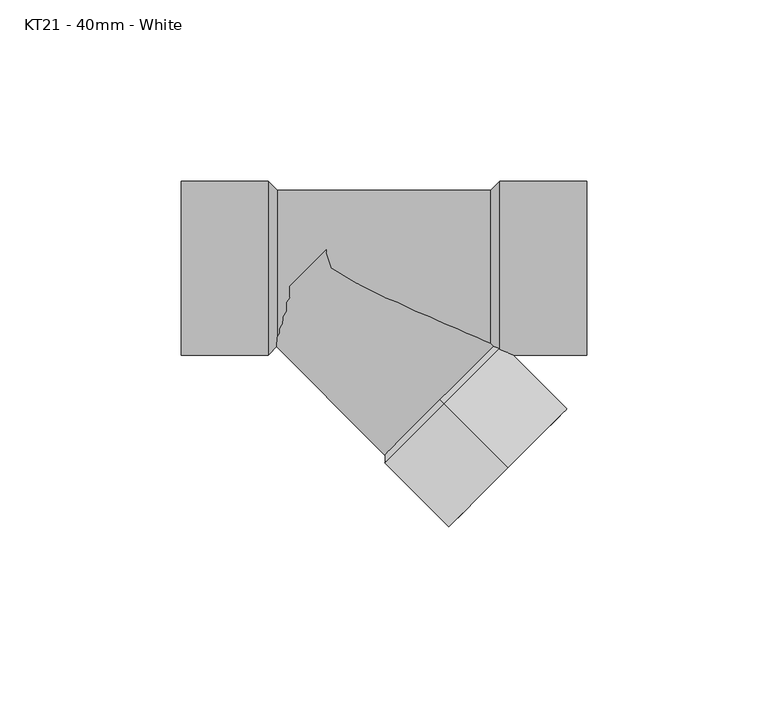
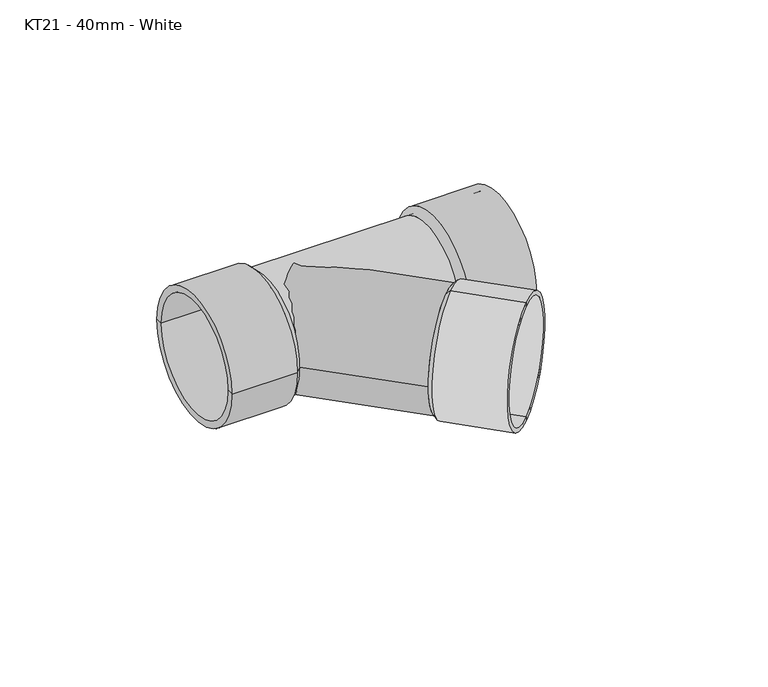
"""IFC4 building model written with IfcOpenShell, lengths in millimetres: pipe fitting geometry, MarleyPlumbingAndDrainage_PipeFitting_EqualBranchTee45 : KT21 - 40mm - White."""

from ifc_helpers import new_model, si_unit, frame, origin, place, context, project, spatial, polyline, circle_curve, ellipse_curve, source, transform, mapped, element, save
from ifc_brep_helpers import plane_surface, cylinder_surface, revolved_surface, advanced_brep


def kt21_40mm_white_b5f2268c(model_context):
    return source(origin(), model_context, "Body", "AdvancedBrep", [
        advanced_brep(
        [(55.1543289, -55.1543289, -21.5), (55.1543289, -55.1543289, 21.5), (55.1543289, -55.1543289, 23.0), (55.1543289, -55.1543289, -23.0), (37.4766594, -37.4766594, -21.5), (37.4766594, -37.4766594, 21.5), (37.4766594, -37.4766594, 0.0), (36.4159992, -36.4159992, -21.5), (36.4159992, -36.4159992, 21.5), (36.4159992, -36.4159992, 0.0), (37.4766594, -37.4766594, -23.0), (37.4766594, -37.4766594, 23.0)],
        [
            (0, 1, circle_curve(frame((55.1543289, -55.1543289, 0.0), z_axis=(-0.7071067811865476, 0.7071067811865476, 0.0), x_axis=(0.0, 0.0, 1.0)), 21.5)),
            (1, 2),
            (2, 3, circle_curve(frame((55.1543289, -55.1543289, 0.0), z_axis=(0.7071067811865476, -0.7071067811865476, 0.0), x_axis=(0.0, 0.0, 1.0)), 23.0)),
            (3, 0),
            (1, 0, circle_curve(frame((55.1543289, -55.1543289, 0.0), z_axis=(-0.7071067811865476, 0.7071067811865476, 0.0), x_axis=(0.0, 0.0, 1.0)), 21.5)),
            (3, 2, circle_curve(frame((55.1543289, -55.1543289, 0.0), z_axis=(0.7071067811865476, -0.7071067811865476, 0.0), x_axis=(0.0, 0.0, 1.0)), 23.0)),
            (4, 5, circle_curve(frame((37.4766594, -37.4766594, 0.0), z_axis=(-0.7071067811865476, 0.7071067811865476, 0.0), x_axis=(0.0, 0.0, 1.0)), 21.5)),
            (5, 1),
            (0, 4),
            (5, 4, circle_curve(frame((37.4766594, -37.4766594, 0.0), z_axis=(-0.7071067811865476, 0.7071067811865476, 0.0), x_axis=(0.0, 0.0, 1.0)), 21.5)),
            (6, 5),
            (4, 6),
            (7, 8, circle_curve(frame((36.4159992, -36.4159992, 0.0), z_axis=(-0.7071067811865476, 0.7071067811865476, 0.0), x_axis=(0.0, 0.0, 1.0)), 21.5)),
            (8, 9),
            (9, 7),
            (8, 7, circle_curve(frame((36.4159992, -36.4159992, 0.0), z_axis=(-0.7071067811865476, 0.7071067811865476, 0.0), x_axis=(0.0, 0.0, 1.0)), 21.5)),
            (10, 11, circle_curve(frame((37.4766594, -37.4766594, 0.0), z_axis=(-0.7071067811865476, 0.7071067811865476, 0.0), x_axis=(0.0, 0.0, 1.0)), 23.0)),
            (11, 8),
            (7, 10),
            (11, 10, circle_curve(frame((37.4766594, -37.4766594, 0.0), z_axis=(-0.7071067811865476, 0.7071067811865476, 0.0), x_axis=(0.0, 0.0, 1.0)), 23.0)),
            (2, 11),
            (10, 3),
        ],
        [
            plane_surface(frame((55.1543289, -55.1543289, 0.0), z_axis=(0.7071067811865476, -0.7071067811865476, 0.0), x_axis=(0.0, 0.0, 1.0))),
            revolved_surface(polyline([(55.154328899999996, -55.154328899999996, 21.5), (37.476659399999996, -37.476659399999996, 21.5)]), (82.0123941, -82.0123941, 0.0), (0.7071067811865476, -0.7071067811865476, 0.0)),
            plane_surface(frame((37.4766594, -37.4766594, 0.0), z_axis=(0.7071067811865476, -0.7071067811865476, 0.0), x_axis=(0.0, 0.0, 1.0))),
            plane_surface(frame((36.4159992, -36.4159992, 0.0), z_axis=(-0.7071067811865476, 0.7071067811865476, 0.0), x_axis=(0.0, 0.0, 1.0))),
            revolved_surface(polyline([(36.4159992, -36.4159992, 21.5), (37.4766594, -37.4766594, 23.0)]), (82.0123941, -82.0123941, 0.0), (0.7071067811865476, -0.7071067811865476, 0.0)),
            cylinder_surface(frame((82.0123941, -82.0123941, 0.0), z_axis=(0.7071067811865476, -0.7071067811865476, 0.0), x_axis=(0.0, 0.0, 1.0)), 23.0),
        ],
        [
            (0, [[1, 2, 3, 4]]),
            (0, [[5, -4, 6, -2]]),
            (1, [[7, 8, -1, 9]]),
            (1, [[10, -9, -5, -8]]),
            (2, [[11, -7, 12]]),
            (2, [[-12, -10, -11]]),
            (3, [[13, 14, 15]]),
            (3, [[16, -15, -14]]),
            (4, [[17, 18, -13, 19]]),
            (4, [[20, -19, -16, -18]]),
            (5, [[-3, 21, -17, 22]]),
            (5, [[-6, -22, -20, -21]]),
        ],
    ),
        advanced_brep(
        [(-11.0, -19.4055916, 0.0), (-11.0, -11.0, 0.0), (-11.0, -11.0, -14.8408221), (-11.0, -11.0, 14.8408221), (15.2027958, 15.2027958, 0.0), (21.2132034, -51.618795, 0.0), (51.618795, -21.2132034, 0.0)],
        [
            (0, 1),
            (1, 2),
            (2, 0, ellipse_curve(frame((-11.0, 11.0, 0.0), z_axis=(-1.0, 0.0, 0.0), x_axis=(0.0, 1.0, 0.0)), 30.4055916, 21.5)),
            (0, 3, ellipse_curve(frame((-11.0, 11.0, 0.0), z_axis=(-1.0, 0.0, 0.0), x_axis=(0.0, 1.0, 0.0)), 30.4055916, 21.5)),
            (3, 1),
            (3, 4, circle_curve(frame((0.0, 0.0, 0.0), z_axis=(-0.7071067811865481, 0.707106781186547, 0.0), x_axis=(0.707106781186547, 0.7071067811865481, 0.0)), 21.5)),
            (4, 2, circle_curve(frame((0.0, 0.0, 0.0), z_axis=(-0.7071067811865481, 0.707106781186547, 0.0), x_axis=(0.707106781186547, 0.7071067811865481, 0.0)), 21.5)),
            (5, 6, circle_curve(frame((36.4159992, -36.4159992, 0.0), z_axis=(0.7071067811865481, -0.707106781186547, 0.0), x_axis=(0.707106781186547, 0.7071067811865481, 0.0)), 21.5)),
            (6, 5, circle_curve(frame((36.4159992, -36.4159992, 0.0), z_axis=(0.7071067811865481, -0.707106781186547, 0.0), x_axis=(0.707106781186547, 0.7071067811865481, 0.0)), 21.5)),
            (6, 4),
            (0, 5),
        ],
        [
            plane_surface(frame((-11.0, 0.0, 0.0), z_axis=(-1.0, 0.0, 0.0), x_axis=(0.0, 1.0, 0.0))),
            plane_surface(frame((0.0, 0.0, 0.0), z_axis=(-0.7071067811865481, 0.707106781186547, 0.0), x_axis=(0.0, 0.0, 1.0))),
            plane_surface(frame((36.4159992, -36.4159992, 0.0), z_axis=(0.7071067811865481, -0.707106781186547, 0.0), x_axis=(0.0, 0.0, 1.0))),
            cylinder_surface(frame((0.0, 0.0, 0.0), z_axis=(-0.7071067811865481, 0.707106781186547, 0.0), x_axis=(0.707106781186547, 0.7071067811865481, 0.0)), 21.5),
        ],
        [
            (0, [[1, 2, 3]]),
            (0, [[-1, 4, 5]]),
            (1, [[6, 7, -2, -5]]),
            (2, [[8, 9]]),
            (3, [[-9, 10, -6, -4, 11]]),
            (3, [[-8, -11, -3, -7, -10]]),
        ],
    ),
        advanced_brep(
        [(-35.0, -24.0, 0.0), (-35.0, 24.0, 0.0), (-11.0, 24.0, 0.0), (-11.0, -24.0, 0.0), (-35.0, -21.5, 0.0), (-35.0, 21.5, 0.0), (-11.0, -21.5, 0.0), (-11.0, 21.5, 0.0), (-11.0, 0.0, 0.0), (-8.5, 21.5, 0.0), (-8.5, -21.5, 0.0), (53.0, -21.5, 0.0), (53.0, 21.5, 0.0), (53.0, 0.0, 0.0), (77.0, -21.5, 0.0), (77.0, 21.5, 0.0), (77.0, -24.0, 0.0), (77.0, 24.0, 0.0), (53.0, -24.0, 0.0), (53.0, 24.0, 0.0), (50.5, -21.5, 0.0), (50.5, 21.5, 0.0)],
        [
            (0, 1, circle_curve(frame((-35.0, 0.0, 0.0), z_axis=(1.0, 0.0, 0.0), x_axis=(0.0, 1.0, 0.0)), 24.0)),
            (1, 2),
            (2, 3, circle_curve(frame((-11.0, 0.0, 0.0), z_axis=(-1.0, 0.0, 0.0), x_axis=(0.0, 1.0, 0.0)), 24.0)),
            (3, 0),
            (1, 0, circle_curve(frame((-35.0, 0.0, 0.0), z_axis=(1.0, 0.0, 0.0), x_axis=(0.0, 1.0, 0.0)), 24.0)),
            (3, 2, circle_curve(frame((-11.0, 0.0, 0.0), z_axis=(-1.0, 0.0, 0.0), x_axis=(0.0, 1.0, 0.0)), 24.0)),
            (4, 5, circle_curve(frame((-35.0, 0.0, 0.0), z_axis=(1.0, 0.0, 0.0), x_axis=(0.0, 1.0, 0.0)), 21.5)),
            (5, 1),
            (0, 4),
            (5, 4, circle_curve(frame((-35.0, 0.0, 0.0), z_axis=(1.0, 0.0, 0.0), x_axis=(0.0, 1.0, 0.0)), 21.5)),
            (6, 7, circle_curve(frame((-11.0, 0.0, 0.0), z_axis=(1.0, 0.0, 0.0), x_axis=(0.0, 1.0, 0.0)), 21.5)),
            (7, 5),
            (4, 6),
            (7, 6, circle_curve(frame((-11.0, 0.0, 0.0), z_axis=(1.0, 0.0, 0.0), x_axis=(0.0, 1.0, 0.0)), 21.5)),
            (8, 7),
            (6, 8),
            (2, 9),
            (9, 10, circle_curve(frame((-8.5, 0.0, 0.0), z_axis=(-1.0, 0.0, 0.0), x_axis=(0.0, 1.0, 0.0)), 21.5)),
            (10, 3),
            (10, 9, circle_curve(frame((-8.5, 0.0, 0.0), z_axis=(-1.0, 0.0, 0.0), x_axis=(0.0, 1.0, 0.0)), 21.5)),
            (11, 12, circle_curve(frame((53.0, 0.0, 0.0), z_axis=(1.0, 0.0, 0.0), x_axis=(0.0, 1.0, 0.0)), 21.5)),
            (12, 13),
            (13, 11),
            (12, 11, circle_curve(frame((53.0, 0.0, 0.0), z_axis=(1.0, 0.0, 0.0), x_axis=(0.0, 1.0, 0.0)), 21.5)),
            (14, 15, circle_curve(frame((77.0, 0.0, 0.0), z_axis=(1.0, 0.0, 0.0), x_axis=(0.0, 1.0, 0.0)), 21.5)),
            (15, 12),
            (11, 14),
            (15, 14, circle_curve(frame((77.0, 0.0, 0.0), z_axis=(1.0, 0.0, 0.0), x_axis=(0.0, 1.0, 0.0)), 21.5)),
            (16, 17, circle_curve(frame((77.0, 0.0, 0.0), z_axis=(1.0, 0.0, 0.0), x_axis=(0.0, 1.0, 0.0)), 24.0)),
            (17, 15),
            (14, 16),
            (17, 16, circle_curve(frame((77.0, 0.0, 0.0), z_axis=(1.0, 0.0, 0.0), x_axis=(0.0, 1.0, 0.0)), 24.0)),
            (18, 19, circle_curve(frame((53.0, 0.0, 0.0), z_axis=(1.0, 0.0, 0.0), x_axis=(0.0, 1.0, 0.0)), 24.0)),
            (19, 17),
            (16, 18),
            (19, 18, circle_curve(frame((53.0, 0.0, 0.0), z_axis=(1.0, 0.0, 0.0), x_axis=(0.0, 1.0, 0.0)), 24.0)),
            (20, 21, circle_curve(frame((50.5, 0.0, 0.0), z_axis=(1.0, 0.0, 0.0), x_axis=(0.0, 1.0, 0.0)), 21.5)),
            (21, 19),
            (18, 20),
            (21, 20, circle_curve(frame((50.5, 0.0, 0.0), z_axis=(1.0, 0.0, 0.0), x_axis=(0.0, 1.0, 0.0)), 21.5)),
            (9, 21),
            (20, 10),
        ],
        [
            cylinder_surface(frame((2032.0, 0.0, 0.0), z_axis=(-1.0, 0.0, 0.0), x_axis=(0.0, 1.0, 0.0)), 24.0),
            plane_surface(frame((-35.0, 0.0, 0.0), z_axis=(-1.0, 0.0, 0.0), x_axis=(0.0, 1.0, 0.0))),
            revolved_surface(polyline([(-35.0, 21.5, 0.0), (-11.0, 21.5, 0.0)]), (2032.0, 0.0, 0.0), (-1.0, 0.0, 0.0)),
            plane_surface(frame((-11.0, 0.0, 0.0), z_axis=(-1.0, 0.0, 0.0), x_axis=(0.0, 1.0, 0.0))),
            revolved_surface(polyline([(-8.5, 21.5, 0.0), (-11.0, 24.0, 0.0)]), (2032.0, 0.0, 0.0), (-1.0, 0.0, 0.0)),
            plane_surface(frame((53.0, 0.0, 0.0), z_axis=(1.0, 0.0, 0.0), x_axis=(0.0, 1.0, 0.0))),
            revolved_surface(polyline([(53.0, 21.5, 0.0), (77.0, 21.5, 0.0)]), (2032.0, 0.0, 0.0), (-1.0, 0.0, 0.0)),
            plane_surface(frame((77.0, 0.0, 0.0), z_axis=(1.0, 0.0, 0.0), x_axis=(0.0, 1.0, 0.0))),
            revolved_surface(polyline([(53.0, 24.0, 0.0), (50.5, 21.5, 0.0)]), (2032.0, 0.0, 0.0), (-1.0, 0.0, 0.0)),
            cylinder_surface(frame((2032.0, 0.0, 0.0), z_axis=(-1.0, 0.0, 0.0), x_axis=(0.0, 1.0, 0.0)), 21.5),
        ],
        [
            (0, [[1, 2, 3, 4]]),
            (0, [[5, -4, 6, -2]]),
            (1, [[7, 8, -1, 9]]),
            (1, [[10, -9, -5, -8]]),
            (2, [[11, 12, -7, 13]]),
            (2, [[14, -13, -10, -12]]),
            (3, [[15, -11, 16]]),
            (3, [[-16, -14, -15]]),
            (4, [[-3, 17, 18, 19]]),
            (4, [[-6, -19, 20, -17]]),
            (5, [[21, 22, 23]]),
            (5, [[24, -23, -22]]),
            (6, [[25, 26, -21, 27]]),
            (6, [[28, -27, -24, -26]]),
            (7, [[29, 30, -25, 31]]),
            (7, [[32, -31, -28, -30]]),
            (0, [[33, 34, -29, 35]]),
            (0, [[36, -35, -32, -34]]),
            (8, [[37, 38, -33, 39]]),
            (8, [[40, -39, -36, -38]]),
            (9, [[-18, 41, -37, 42]]),
            (9, [[-20, -42, -40, -41]]),
        ],
    ),
    ])


if __name__ == "__main__":
    model = new_model("IFC4")
    model_context = context("Model", 3, world=origin())
    ifc_project = project(units=[si_unit("LENGTHUNIT", "METRE", prefix="MILLI")], contexts=[model_context])
    site = spatial("IfcSite", under=ifc_project)
    building = spatial("IfcBuilding", under=site)
    placement = place(None, origin())
    kt21_40mm_white_shape = kt21_40mm_white_b5f2268c(model_context)
    element("IfcPipeFitting", 1, ObjectType="MarleyPlumbingAndDrainage_PipeFitting_EqualBranchTee45 : KT21 - 40mm - White", at=placement, inside=building, context=model_context, shape_type="MappedRepresentation", body=[
        mapped(kt21_40mm_white_shape, transform((0.0, 0.0, 0.0), x_axis=(1.0, 0.0, 0.0), y_axis=(0.0, 1.0, 0.0), z_axis=(0.0, 0.0, 1.0))),
    ])
    save(model, "model.ifc")
